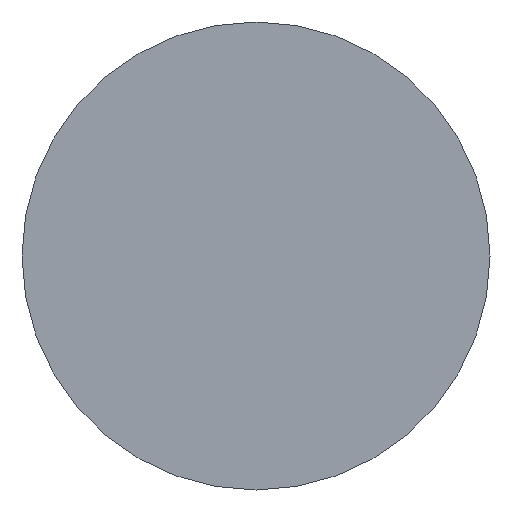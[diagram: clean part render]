
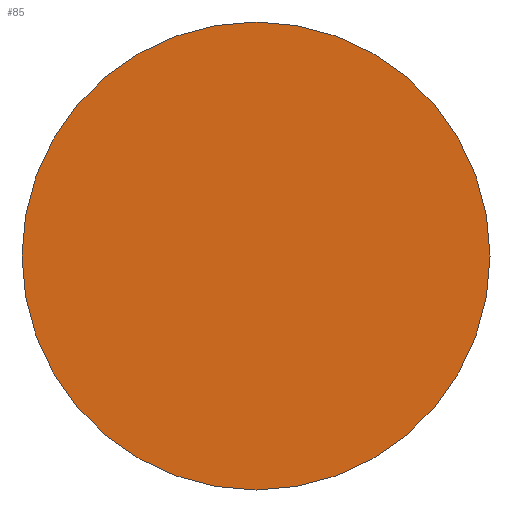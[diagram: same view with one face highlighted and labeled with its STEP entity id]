
A CAD part, front view. The second image highlights one B-rep face of the part: STEP entity #85.
In plain terms, the highlighted planar face has unit normal (0, -1, 0).
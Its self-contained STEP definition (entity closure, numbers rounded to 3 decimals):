
#2=CARTESIAN_POINT('',(0.,0.,0.));
#3=DIRECTION('',(0.,1.,0.));
#4=DIRECTION('',(1.,0.,0.));
#5=AXIS2_PLACEMENT_3D('',#2,#3,#4);
#7=CARTESIAN_POINT('',(0.,0.,0.));
#8=DIRECTION('',(0.,1.,0.));
#9=DIRECTION('',(-1.,0.,0.));
#10=AXIS2_PLACEMENT_3D('',#7,#8,#9);
#58=CARTESIAN_POINT('',(2.25,0.,0.));
#59=CARTESIAN_POINT('',(-2.25,0.,0.));
#60=VERTEX_POINT('',#58);
#61=VERTEX_POINT('',#59);
#74=CARTESIAN_POINT('',(0.,0.,0.));
#75=DIRECTION('',(0.,1.,0.));
#76=DIRECTION('',(1.,0.,0.));
#77=AXIS2_PLACEMENT_3D('',#74,#75,#76);
#78=PLANE('',#77);
#80=ORIENTED_EDGE('',*,*,#79,.T.);
#82=ORIENTED_EDGE('',*,*,#81,.T.);
#83=EDGE_LOOP('',(#80,#82));
#84=FACE_OUTER_BOUND('',#83,.F.);
#85=ADVANCED_FACE('',(#84),#78,.F.);
#6=CIRCLE('',#5,2.25);
#11=CIRCLE('',#10,2.25);
#79=EDGE_CURVE('',#60,#61,#6,.T.);
#81=EDGE_CURVE('',#61,#60,#11,.T.);
